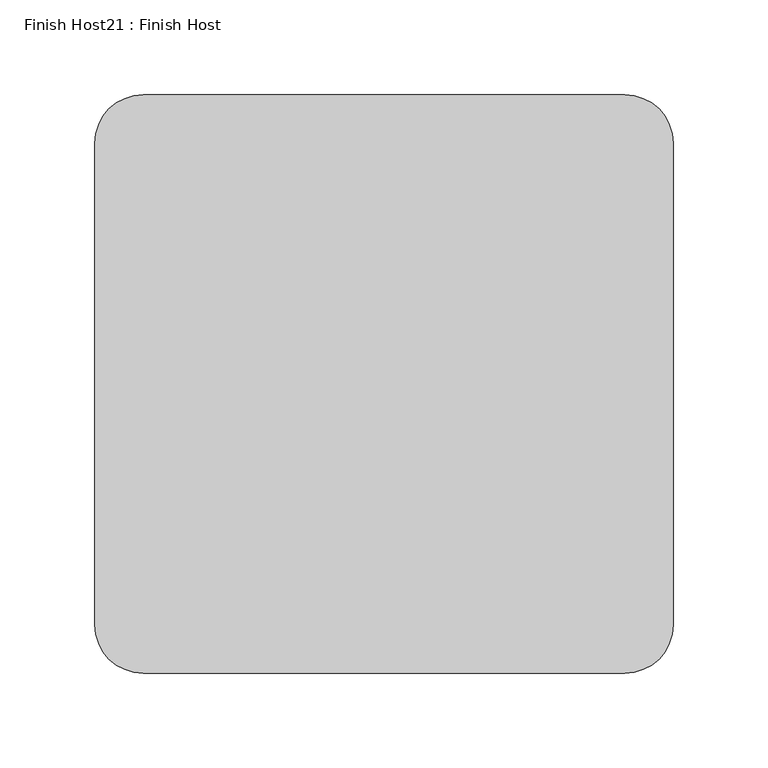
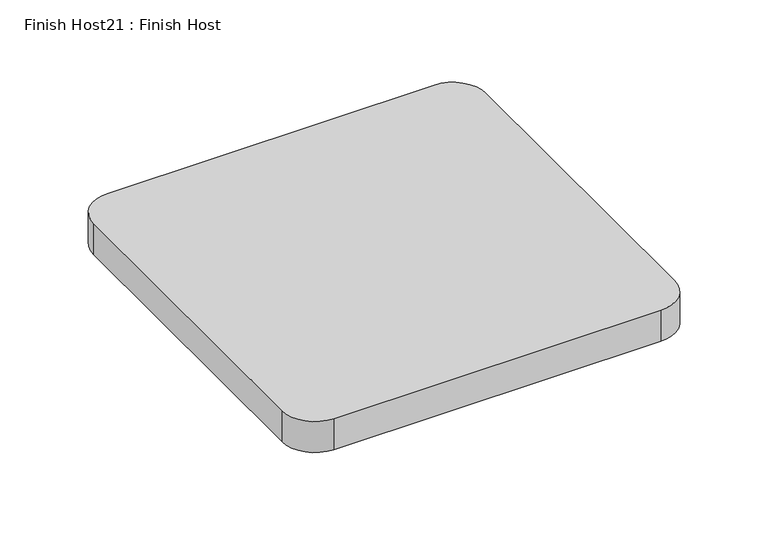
"""IFC4 building model written with IfcOpenShell, lengths in millimetres: proxy geometry, Finish Host21 : Finish Host."""

import ifcopenshell
import ifcopenshell.guid

model = None  # the IFC model being written
_history = None  # IfcOwnerHistory: only IFC2X3 demands one
_inside = {}  # id of a spatial element -> (the spatial element, [elements in it])
_under = {}  # id of a project, library or spatial element -> (it, [spatial elements below it])
_declared = {}  # id of a project -> (the project, [libraries it declares])
_typed = {}  # id of a type object -> (the type object, [elements of that type])
_made_of = {}  # id of a material, layer set ... -> (it, [elements and type objects made of it])


def new_model(schema):
    """Start an empty IFC model of exactly this schema.

    Asked for "IFC4X3", IfcOpenShell would pick the latest addendum, in which some entities
    have other attributes; the version numbers below select the first issue.
    IFC2X3 requires an IfcOwnerHistory on every rooted entity: one is made here for all.
    """
    global model, _history
    if schema == "IFC4X3":
        model = ifcopenshell.file(schema_version=(4, 3, 0, 0))
    else:
        model = ifcopenshell.file(schema=schema)
    _inside.clear()
    _under.clear()
    _declared.clear()
    _typed.clear()
    _made_of.clear()
    _history = None
    if model.schema == "IFC2X3":
        org = make("IfcOrganization", Name="unknown")
        user = make(
            "IfcPersonAndOrganization",
            ThePerson=make("IfcPerson", FamilyName="unknown"),
            TheOrganization=org,
        )
        app = make(
            "IfcApplication",
            ApplicationDeveloper=org,
            Version="unknown",
            ApplicationFullName="unknown",
            ApplicationIdentifier="unknown",
        )
        _history = make(
            "IfcOwnerHistory",
            OwningUser=user,
            OwningApplication=app,
            ChangeAction="ADDED",
            CreationDate=0,
        )
    return model


def make(cls, **values):
    """One entity of the class cls with the attributes given. An attribute that is None is left unset."""
    return model.create_entity(
        cls, **{name: value for name, value in values.items() if value is not None}
    )


def rooted(cls, **values):
    """An entity with a GlobalId (a new one), such as an element, a storey or a relation."""
    return make(cls, GlobalId=ifcopenshell.guid.new(), OwnerHistory=_history, **values)


def si_unit(unit_type, name, prefix=None):
    """IfcSIUnit, for example si_unit("LENGTHUNIT", "METRE", prefix="MILLI")."""
    return make("IfcSIUnit", UnitType=unit_type, Prefix=prefix, Name=name)


def assignment(units):
    """IfcUnitAssignment: the units of a project."""
    return None if units is None else make("IfcUnitAssignment", Units=units)


def point(xyz):
    """IfcCartesianPoint."""
    return None if xyz is None else make("IfcCartesianPoint", Coordinates=xyz)


def direction(xyz):
    """IfcDirection."""
    return None if xyz is None else make("IfcDirection", DirectionRatios=xyz)


def frame(location, z_axis=None, x_axis=None):
    """IfcAxis2Placement3D, a coordinate frame: its origin and axes. An axis left out is left unset."""
    return make(
        "IfcAxis2Placement3D",
        Location=point(location),
        Axis=direction(z_axis),
        RefDirection=direction(x_axis),
    )


def frame_2d(location, x_axis=None):
    """IfcAxis2Placement2D, a coordinate frame in the plane: its origin and x axis."""
    return make(
        "IfcAxis2Placement2D", Location=point(location), RefDirection=direction(x_axis)
    )


def origin():
    """The frame at (0, 0, 0) with its axes left unset."""
    return frame((0.0, 0.0, 0.0))


def origin_with_axes():
    """The frame at (0, 0, 0) with the z axis (0, 0, 1) and the x axis (1, 0, 0) written out."""
    return frame((0.0, 0.0, 0.0), z_axis=(0.0, 0.0, 1.0), x_axis=(1.0, 0.0, 0.0))


def place(relative_to, where):
    """IfcLocalPlacement: puts the frame where relative to a parent placement (None: the world)."""
    return make(
        "IfcLocalPlacement", PlacementRelTo=relative_to, RelativePlacement=where
    )


def context(
    kind, dimensions, precision=None, world=None, true_north=None, identifier=None
):
    """IfcGeometricRepresentationContext, for example the 3D "Model" context."""
    return make(
        "IfcGeometricRepresentationContext",
        ContextIdentifier=identifier,
        ContextType=kind,
        CoordinateSpaceDimension=dimensions,
        Precision=precision,
        WorldCoordinateSystem=world,
        TrueNorth=true_north,
    )


def project(units=None, contexts=None):
    """IfcProject with its units and contexts."""
    return rooted(
        "IfcProject",
        Name="project",
        RepresentationContexts=contexts,
        UnitsInContext=assignment(units),
    )


def spatial(cls, under=None, at=None, **own):
    """A site, building, storey or space (cls), placed at a placement, below another one or the project."""
    s = rooted(cls, ObjectPlacement=at, **own)
    if under is not None:
        _under.setdefault(under.id(), (under, []))[1].append(s)
    return s


def polyline(points):
    """IfcPolyline through the points."""
    return make("IfcPolyline", Points=[point(p) for p in points])


def circle_curve(where, radius):
    """IfcCircle in the frame where."""
    return make("IfcCircle", Position=where, Radius=radius)


def trimmed(basis, trim1, trim2, sense, master):
    """IfcTrimmedCurve: the piece of a basis curve between two trims."""
    return make(
        "IfcTrimmedCurve",
        BasisCurve=basis,
        Trim1=trim1,
        Trim2=trim2,
        SenseAgreement=sense,
        MasterRepresentation=master,
    )


def segment(curve, same_sense, transition):
    """IfcCompositeCurveSegment."""
    return make(
        "IfcCompositeCurveSegment",
        Transition=transition,
        SameSense=same_sense,
        ParentCurve=curve,
    )


def composite_curve(segments, self_intersect=None):
    """IfcCompositeCurve: segments joined end to end."""
    return make("IfcCompositeCurve", Segments=segments, SelfIntersect=self_intersect)


def outline(outer, holes=None, kind="AREA"):
    """IfcArbitraryClosedProfileDef: a profile drawn as a closed curve; with holes, ...WithVoids."""
    if holes is None:
        return make("IfcArbitraryClosedProfileDef", ProfileType=kind, OuterCurve=outer)
    return make(
        "IfcArbitraryProfileDefWithVoids",
        ProfileType=kind,
        OuterCurve=outer,
        InnerCurves=holes,
    )


def extrude(swept, where, along, depth):
    """IfcExtrudedAreaSolid: the profile swept, set in the frame where, extruded along a direction by depth."""
    return make(
        "IfcExtrudedAreaSolid",
        SweptArea=swept,
        Position=where,
        ExtrudedDirection=direction(along),
        Depth=depth,
    )


def shape(context_of_items, identifier, shape_type, items):
    """IfcShapeRepresentation: the items that make up one representation, for example the "Body"."""
    return make(
        "IfcShapeRepresentation",
        ContextOfItems=context_of_items,
        RepresentationIdentifier=identifier,
        RepresentationType=shape_type,
        Items=items,
    )


def source(mapping_origin, context_of_items, identifier, shape_type, items):
    """IfcRepresentationMap: a shape defined once, which mapped items show again and again."""
    return make(
        "IfcRepresentationMap",
        MappingOrigin=mapping_origin,
        MappedRepresentation=shape(context_of_items, identifier, shape_type, items),
    )


def transform(
    local_origin,
    x_axis=None,
    y_axis=None,
    z_axis=None,
    scale=None,
    scale2=None,
    scale3=None,
    uniform=True,
):
    """IfcCartesianTransformationOperator3D, or its non-uniform kind. x_axis, y_axis, z_axis: its Axis1, 2, 3."""
    if uniform:
        return make(
            "IfcCartesianTransformationOperator3D",
            Axis1=direction(x_axis),
            Axis2=direction(y_axis),
            LocalOrigin=point(local_origin),
            Scale=scale,
            Axis3=direction(z_axis),
        )
    return make(
        "IfcCartesianTransformationOperator3DnonUniform",
        Axis1=direction(x_axis),
        Axis2=direction(y_axis),
        LocalOrigin=point(local_origin),
        Scale=scale,
        Axis3=direction(z_axis),
        Scale2=scale2,
        Scale3=scale3,
    )


def mapped(mapping_source, mapping_target):
    """IfcMappedItem: shows the shape of a source again, moved by a transform."""
    return make(
        "IfcMappedItem", MappingSource=mapping_source, MappingTarget=mapping_target
    )


def made_of(thing, what):
    """Note that an element or type object is made of a material, layer set ...; save() writes the relation."""
    if what is not None:
        _made_of.setdefault(what.id(), (what, []))[1].append(thing)
    return thing


def element(
    cls,
    number,
    at=None,
    inside=None,
    cuts=None,
    type_object=None,
    material=None,
    context=None,
    identifier="Body",
    shape_type=None,
    held_by="IfcProductDefinitionShape",
    body=None,
    shapes=None,
    **own,
):
    """One element of the class cls, such as IfcWall. Its Tag is "e" and its number.

    at: its placement. inside: the storey or other place that contains it. cuts: it is an
    opening in that element (IfcRelVoidsElement). A single representation is given by context,
    identifier, shape_type and body (its items); several are given by shapes. held_by: the class
    of the entity that holds the representations. save() writes the other relations.
    """
    e = rooted(cls, Tag="e%d" % number, ObjectPlacement=at, **own)
    if body is not None:
        shapes = [shape(context, identifier, shape_type, body)]
    if shapes is not None:
        e.Representation = make(held_by, Representations=shapes)
    if inside is not None:
        _inside.setdefault(inside.id(), (inside, []))[1].append(e)
    if cuts is not None:
        rooted(
            "IfcRelVoidsElement", RelatingBuildingElement=cuts, RelatedOpeningElement=e
        )
    if type_object is not None:
        _typed.setdefault(type_object.id(), (type_object, []))[1].append(e)
    return made_of(e, material)


def aggregate(whole, parts):
    """IfcRelAggregates: a whole, such as a stair, and the parts it consists of."""
    return rooted("IfcRelAggregates", RelatingObject=whole, RelatedObjects=parts)


def save(model, path):
    """Write the relations noted so far, then the file.

    IfcRelAggregates (storeys below a building ...), IfcRelContainedInSpatialStructure (elements
    in a storey), IfcRelDefinesByType, IfcRelAssociatesMaterial and IfcRelDeclares: one each for
    every whole, place, type object, material and project.
    """
    for whole, parts in _under.values():
        aggregate(whole, parts)
    for where, things in _inside.values():
        rooted(
            "IfcRelContainedInSpatialStructure",
            RelatedElements=things,
            RelatingStructure=where,
        )
    for kind, things in _typed.values():
        rooted("IfcRelDefinesByType", RelatedObjects=things, RelatingType=kind)
    for what, things in _made_of.values():
        rooted("IfcRelAssociatesMaterial", RelatedObjects=things, RelatingMaterial=what)
    for by, libraries in _declared.values():
        rooted("IfcRelDeclares", RelatingContext=by, RelatedDefinitions=libraries)
    model.write(path)


def finish_host21_finish_host_b409f199(model_context):
    return source(origin(), model_context, "Body", "SweptSolid", [
        extrude(outline(composite_curve([segment(polyline([(1190.1649374, 804.1667263), (1190.1649374, 1058.1667263)]), True, "CONTINUOUS"), segment(trimmed(circle_curve(frame_2d((1215.5649374, 1058.1667263)), 25.4), [point((1190.1649374, 1058.1667263))], [point((1215.5649374, 1083.5667263))], False, "CARTESIAN"), True, "CONTINUOUS"), segment(polyline([(1215.5649374, 1083.5667263), (1469.5649374, 1083.5667263)]), True, "CONTINUOUS"), segment(trimmed(circle_curve(frame_2d((1469.5649374, 1058.1667263)), 25.4), [point((1469.5649374, 1083.5667263))], [point((1494.9649374, 1058.1667263))], False, "CARTESIAN"), True, "CONTINUOUS"), segment(polyline([(1494.9649374, 1058.1667263), (1494.9649374, 804.1667263)]), True, "CONTINUOUS"), segment(trimmed(circle_curve(frame_2d((1469.5649374, 804.1667263)), 25.4), [point((1494.9649374, 804.1667263))], [point((1469.5649374, 778.7667263))], False, "CARTESIAN"), True, "CONTINUOUS"), segment(polyline([(1469.5649374, 778.7667263), (1215.5649374, 778.7667263)]), True, "CONTINUOUS"), segment(trimmed(circle_curve(frame_2d((1215.5649374, 804.1667263)), 25.4), [point((1215.5649374, 778.7667263))], [point((1190.1649374, 804.1667263))], False, "CARTESIAN"), True, "CONTINUOUS")], self_intersect=False)), origin_with_axes(), (0.0, 0.0, 1.0), 25.4),
    ])


if __name__ == "__main__":
    model = new_model("IFC4")
    model_context = context("Model", 3, world=origin())
    ifc_project = project(units=[si_unit("LENGTHUNIT", "METRE", prefix="MILLI")], contexts=[model_context])
    site = spatial("IfcSite", under=ifc_project)
    building = spatial("IfcBuilding", under=site)
    placement = place(None, origin())
    finish_host21_finish_host_shape = finish_host21_finish_host_b409f199(model_context)
    element("IfcBuildingElementProxy", 1, Name="Finish Host21 : Finish Host", ObjectType="Finish Host21 : Finish Host", at=placement, inside=building, context=model_context, shape_type="MappedRepresentation", body=[
        mapped(finish_host21_finish_host_shape, transform((0.0, 0.0, 0.0), x_axis=(1.0, 0.0, 0.0), y_axis=(0.0, 1.0, 0.0), z_axis=(0.0, 0.0, 1.0))),
    ])
    save(model, "model.ifc")
